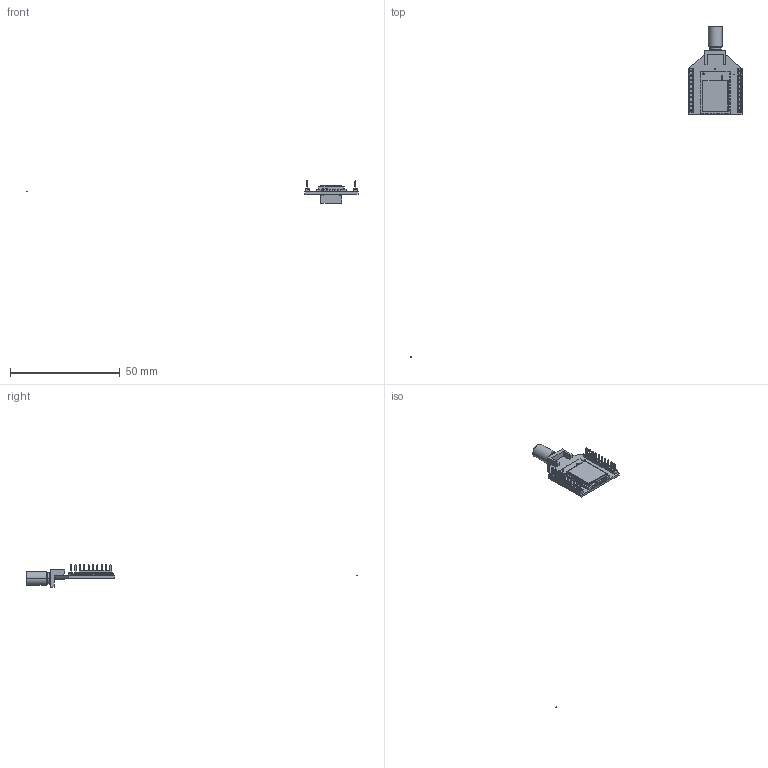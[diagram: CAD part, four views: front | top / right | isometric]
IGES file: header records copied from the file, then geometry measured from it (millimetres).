
Start section: SolidWorks IGES file using analytic representation for surfaces
Global section: file name: W:\working\55000000\55000000 SOLIDWORKS\55001998-04_PRT.IGS; native system: SolidWorks 2020; preprocessor: SolidWorks 2020; author: tmiller; date: 221130.150904; units: millimetre
Bounding box: 151.57 x 151.22 x 10.16 mm (x, y, z)
Surface area: 3894.6 mm2 (no closed solid volume)
Topology: 0 solids, 0 shells, 857 faces, 5724 edges, 5669 vertices
Faces by surface type: bspline 673, revolution 184
